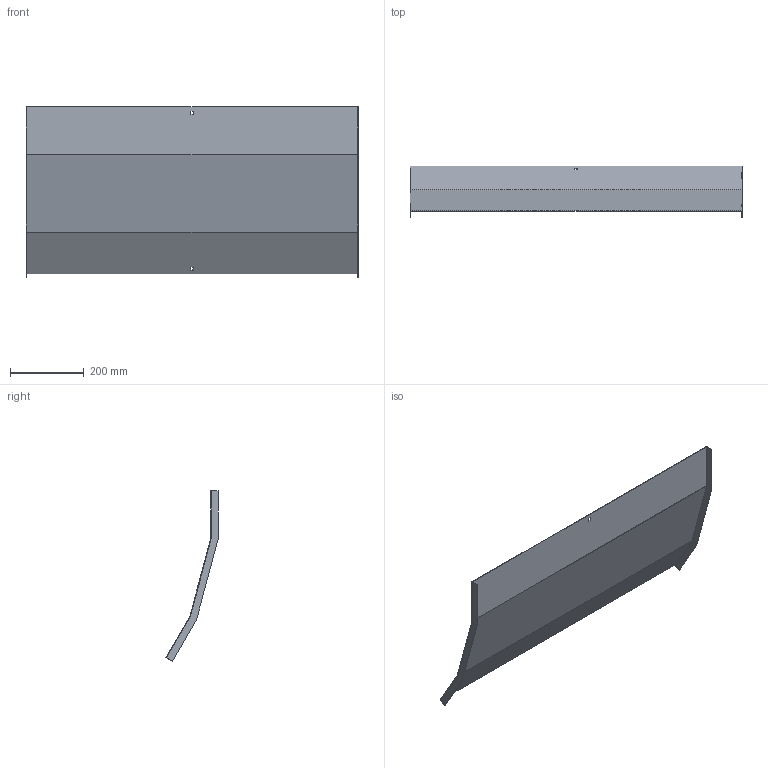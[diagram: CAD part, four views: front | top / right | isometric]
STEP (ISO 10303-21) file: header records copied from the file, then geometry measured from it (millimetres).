
FILE_DESCRIPTION (( 'STEP AP214' ), '1' );
FILE_NAME ('32N5R900_H150.step', '2025-02-21T14:28:27', ( '' ), ( '' ), 'SwSTEP 2.0', 'SolidWorks 2023', '' );
FILE_SCHEMA (( 'AUTOMOTIVE_DESIGN' ));
Length unit declared in the file: millimetre
Products named in the file (1): 32N5R900_H150
Bounding box: 903 x 141.68 x 464.12 mm (x, y, z)
Volume: 676063.7 mm3; surface area: 905798.6 mm2
Topology: 1 solids, 1 shells, 26 faces, 72 edges, 48 vertices
Faces by surface type: plane 26
Entity records: 847 total; most frequent: CARTESIAN_POINT 147, ORIENTED_EDGE 144, DIRECTION 126, EDGE_CURVE 72, VECTOR 72, LINE 72, VERTEX_POINT 48, EDGE_LOOP 30
